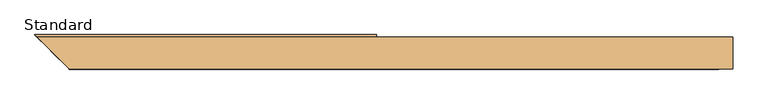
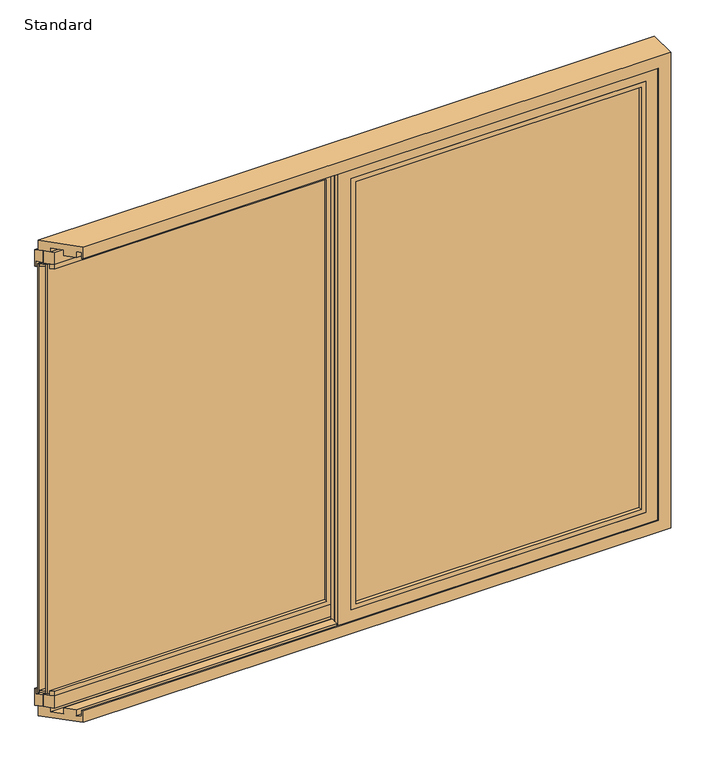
"""IFC4 building model written with IfcOpenShell, lengths in millimetres: door geometry, SMARTS_Visoglide Plus Corner : Standard."""

from ifc_helpers import new_model, si_unit, frame, origin, place, context, project, spatial, polyline, outline, extrude, faceted_brep, source, transform, mapped, element, save


def standard_1a9b79a5(model_context):
    return source(origin(), model_context, "Body", "SolidModel", [
        extrude(outline(polyline([(1242.5, -67.0), (26.5, -67.0), (26.5, -63.0), (1242.5, -63.0), (1242.5, -67.0)])), frame((0.0, 0.0, 907.5), z_axis=(0.0, 0.0, 1.0), x_axis=(1.0, 0.0, 0.0)), (0.0, 0.0, 1.0), 1885.0),
        extrude(outline(polyline([(1242.5, -47.0), (26.5, -47.0), (26.5, -43.0), (1242.5, -43.0), (1242.5, -47.0)])), frame((0.0, 0.0, 907.5), z_axis=(0.0, 0.0, 1.0), x_axis=(1.0, 0.0, 0.0)), (0.0, 0.0, 1.0), 1885.0),
        extrude(outline(polyline([(2792.5, 26.5), (907.5, 26.5), (907.5, 1242.5), (2792.5, 1242.5), (2792.5, 26.5)]), holes=[polyline([(2782.5, 1232.5), (917.5, 1232.5), (917.5, 36.5), (2782.5, 36.5), (2782.5, 1232.5)])]), frame((0.0, -63.0, 0.0), z_axis=(0.0, 1.0, 0.0), x_axis=(0.0, 0.0, 1.0)), (0.0, 0.0, 1.0), 16.0),
        extrude(outline(polyline([(2797.5, 1247.5), (2797.5, 21.5), (902.5, 21.5), (902.5, 1247.5), (2797.5, 1247.5)]), holes=[polyline([(922.5, 1227.5), (922.5, 41.5), (2777.5, 41.5), (2777.5, 1227.5), (922.5, 1227.5)])]), frame((0.0, -86.0, 0.0), z_axis=(0.0, 1.0, 0.0), x_axis=(0.0, 0.0, 1.0)), (0.0, 0.0, 1.0), 11.9897777),
        extrude(outline(polyline([(2851.5, 1301.5), (2851.5, -32.5), (848.5, -32.5), (848.5, 1301.5), (2851.5, 1301.5)]), holes=[polyline([(902.5, 1247.5), (902.5, 21.5), (2797.5, 21.5), (2797.5, 1247.5), (902.5, 1247.5)])]), frame((0.0, -86.0, 0.0), z_axis=(0.0, 1.0, 0.0), x_axis=(0.0, 0.0, 1.0)), (0.0, 0.0, 1.0), 24.0),
        faceted_brep([(1227.5, -39.0, 2777.5), (1227.5, -35.0, 2777.5), (1227.5, -35.0, 922.5), (1227.5, -39.0, 922.5), (1250.5, -62.0, 2800.5), (1250.5, -39.0, 2800.5), (1250.5, -39.0, 899.5), (1250.5, -62.0, 899.5), (1301.5, -35.0, 2851.5), (1301.5, -62.0, 2851.5), (1301.5, -62.0, 848.5), (1301.5, -35.0, 848.5), (41.5, -35.0, 922.5), (41.5, -39.0, 922.5), (18.5, -39.0, 899.5), (18.5, -62.0, 899.5), (-32.5, -62.0, 848.5), (-32.5, -35.0, 848.5), (41.5, -35.0, 2777.5), (41.5, -39.0, 2777.5), (18.5, -39.0, 2800.5), (18.5, -62.0, 2800.5), (-32.5, -62.0, 2851.5), (-32.5, -35.0, 2851.5)], [[[0, 1, 2, 3]], [[4, 5, 6, 7]], [[8, 9, 10, 11]], [[3, 2, 12, 13]], [[7, 6, 14, 15]], [[11, 10, 16, 17]], [[13, 12, 18, 19]], [[15, 14, 20, 21]], [[17, 16, 22, 23]], [[11, 17, 23, 8], [1, 18, 12, 2]], [[19, 18, 1, 0]], [[5, 20, 14, 6], [3, 13, 19, 0]], [[21, 20, 5, 4]], [[9, 22, 16, 10], [7, 15, 21, 4]], [[23, 22, 9, 8]]]),
        extrude(outline(polyline([(-26.5, 24.0), (-26.5, 20.0), (-1213.0, 20.0), (-1217.0, 24.0), (-26.5, 24.0)])), frame((0.0, 0.0, 907.5), z_axis=(0.0, 0.0, 1.0), x_axis=(1.0, 0.0, 0.0)), (0.0, 0.0, 1.0), 1885.0),
        extrude(outline(polyline([(-26.5, 4.0), (-26.5, 0.0), (-1193.0, 0.0), (-1197.0, 4.0), (-26.5, 4.0)])), frame((0.0, 0.0, 907.5), z_axis=(0.0, 0.0, 1.0), x_axis=(1.0, 0.0, 0.0)), (0.0, 0.0, 1.0), 1885.0),
        faceted_brep([(-36.5, 4.0, 2782.5), (-36.5, 20.0, 2782.5), (-36.5, 20.0, 917.5), (-36.5, 4.0, 917.5), (-1197.0, 4.0, 917.5), (-1197.0, 4.0, 907.5), (-26.5, 4.0, 907.5), (-26.5, 4.0, 2792.5), (-1197.0, 4.0, 2792.5), (-1197.0, 4.0, 2782.5), (-1213.0, 20.0, 2782.5), (-26.5, 20.0, 2792.5), (-1213.0, 20.0, 2792.5), (-26.5, 20.0, 907.5), (-1213.0, 20.0, 917.5), (-1213.0, 20.0, 907.5)], [[[0, 1, 2, 3]], [[0, 3, 4, 5, 6, 7, 8, 9]], [[1, 0, 9, 10]], [[7, 11, 12, 8]], [[11, 7, 6, 13]], [[3, 2, 14, 4]], [[13, 6, 5, 15]], [[2, 1, 10, 12, 11, 13, 15, 14]], [[10, 9, 8, 12]], [[4, 14, 15, 5]]]),
        faceted_brep([(-1185.9897777, -7.0102223, 2777.5), (-1174.0, -19.0, 2777.5), (-1174.0, -19.0, 2797.5), (-1185.9897777, -7.0102223, 2797.5), (-1174.0, -19.0, 922.5), (-1185.9897777, -7.0102223, 922.5), (-1185.9897777, -7.0102223, 902.5), (-1174.0, -19.0, 902.5), (-41.5, -7.0102223, 922.5), (-41.5, -19.0, 922.5), (-41.5, -19.0, 2777.5), (-41.5, -7.0102223, 2777.5), (-21.5, -19.0, 902.5), (-21.5, -7.0102223, 902.5), (-21.5, -7.0102223, 2797.5), (-21.5, -19.0, 2797.5)], [[[0, 1, 2, 3]], [[4, 5, 6, 7]], [[8, 9, 10, 11]], [[12, 13, 14, 15]], [[11, 10, 1, 0]], [[15, 14, 3, 2]], [[9, 8, 5, 4]], [[8, 11, 0, 3, 14, 13, 6, 5]], [[13, 12, 7, 6]], [[10, 9, 4, 7, 12, 15, 2, 1]]]),
        faceted_brep([(-1174.0, -19.0, 2851.5), (-1202.5, 9.5, 2851.5), (-1202.5, 9.5, 2797.5), (-1174.0, -19.0, 2797.5), (-1202.5, 9.5, 902.5), (-1202.5, 9.5, 848.5), (-1174.0, -19.0, 848.5), (-1174.0, -19.0, 902.5), (32.5, -19.0, 848.5), (32.5, 9.5, 848.5), (32.5, 9.5, 2851.5), (32.5, -19.0, 2851.5), (-21.5, 9.5, 902.5), (-21.5, -19.0, 902.5), (-21.5, -19.0, 2797.5), (-21.5, 9.5, 2797.5)], [[[0, 1, 2, 3]], [[4, 5, 6, 7]], [[8, 9, 10, 11]], [[12, 13, 14, 15]], [[11, 10, 1, 0]], [[15, 14, 3, 2]], [[10, 9, 5, 4, 12, 15, 2, 1]], [[9, 8, 6, 5]], [[8, 11, 0, 3, 14, 13, 7, 6]], [[13, 12, 4, 7]]]),
        faceted_brep([(-1221.0, 28.0, 922.5), (-1225.0, 32.0, 922.5), (-1225.0, 32.0, 848.5), (-1202.5, 9.5, 848.5), (-1202.5, 9.5, 899.5), (-1221.0, 28.0, 899.5), (-1225.0, 32.0, 2851.5), (-1225.0, 32.0, 2777.5), (-1221.0, 28.0, 2777.5), (-1221.0, 28.0, 2800.5), (-1202.5, 9.5, 2800.5), (-1202.5, 9.5, 2851.5), (-41.5, 28.0, 2777.5), (-41.5, 32.0, 2777.5), (-41.5, 32.0, 922.5), (-41.5, 28.0, 922.5), (-18.5, 9.5, 2800.5), (-18.5, 28.0, 2800.5), (-18.5, 28.0, 899.5), (-18.5, 9.5, 899.5), (32.5, 32.0, 2851.5), (32.5, 9.5, 2851.5), (32.5, 9.5, 848.5), (32.5, 32.0, 848.5)], [[[0, 1, 2, 3, 4, 5]], [[6, 7, 8, 9, 10, 11]], [[12, 13, 14, 15]], [[16, 17, 18, 19]], [[20, 21, 22, 23]], [[15, 14, 1, 0]], [[19, 18, 5, 4]], [[23, 22, 3, 2]], [[14, 13, 7, 6, 20, 23, 2, 1]], [[13, 12, 8, 7]], [[12, 15, 0, 5, 18, 17, 9, 8]], [[17, 16, 10, 9]], [[16, 19, 4, 3, 22, 21, 11, 10]], [[21, 20, 6, 11]]]),
        faceted_brep([(1345.0, -95.0, 2895.0), (1345.0, 22.7989407, 2895.0), (-1215.7989407, 22.7989407, 2895.0), (-1098.0, -95.0, 2895.0), (1293.1999999, -91.0, 2843.1999999), (1293.1999999, -95.0, 2843.1999999), (-1098.0, -95.0, 2843.1999999), (-1102.0, -91.0, 2843.1999999), (1319.1999999, -76.3, 2869.1999999), (1319.1999999, -91.0, 2869.1999999), (-1102.0, -91.0, 2869.1999999), (-1116.7, -76.3, 2869.1999999), (1293.1999999, -43.7842251, 2843.1999999), (1293.1999999, -76.3, 2843.1999999), (-1116.7, -76.3, 2843.1999999), (-1149.2157749, -43.7842251, 2843.1999999), (1319.1999999, -9.7842251, 2869.1999999), (1319.1999999, -43.7842251, 2869.1999999), (-1149.2157749, -43.7842251, 2869.1999999), (-1183.2157749, -9.7842251, 2869.1999999), (1293.1999999, 22.7989407, 2843.1999999), (1293.1999999, -9.7842251, 2843.1999999), (-1183.2157749, -9.7842251, 2843.1999999), (-1215.7989407, 22.7989407, 2843.1999999), (1345.0, 22.7989407, 805.0), (1345.0, -95.0, 805.0), (-1098.0, -95.0, 805.0), (-1215.7989407, 22.7989407, 805.0), (1293.1999999, -95.0, 856.8000001), (1293.1999999, -91.0, 856.8000001), (-1102.0, -91.0, 856.8000001), (-1098.0, -95.0, 856.8000001), (1319.1999999, -91.0, 830.8000001), (1319.1999999, -76.3, 830.8000001), (-1116.7, -76.3, 830.8000001), (-1102.0, -91.0, 830.8000001), (1293.1999999, -76.3, 856.8000001), (1293.1999999, -43.7842251, 856.8000001), (-1149.2157749, -43.7842251, 856.8000001), (-1116.7, -76.3, 856.8000001), (1319.1999999, -43.7842251, 830.8000001), (1319.1999999, -9.7842251, 830.8000001), (-1183.2157749, -9.7842251, 830.8000001), (-1149.2157749, -43.7842251, 830.8000001), (1293.1999999, -9.7842251, 856.8000001), (1293.1999999, 22.7989407, 856.8000001), (-1215.7989407, 22.7989407, 856.8000001), (-1183.2157749, -9.7842251, 856.8000001)], [[[0, 1, 2, 3]], [[4, 5, 6, 7]], [[8, 9, 10, 11]], [[12, 13, 14, 15]], [[16, 17, 18, 19]], [[20, 21, 22, 23]], [[24, 25, 26, 27]], [[28, 29, 30, 31]], [[32, 33, 34, 35]], [[36, 37, 38, 39]], [[40, 41, 42, 43]], [[44, 45, 46, 47]], [[1, 0, 25, 24]], [[25, 0, 3, 6, 5, 28, 31, 26]], [[5, 4, 29, 28]], [[29, 4, 7, 10, 9, 32, 35, 30]], [[9, 8, 33, 32]], [[33, 8, 11, 14, 13, 36, 39, 34]], [[13, 12, 37, 36]], [[37, 12, 15, 18, 17, 40, 43, 38]], [[17, 16, 41, 40]], [[41, 16, 19, 22, 21, 44, 47, 42]], [[21, 20, 45, 44]], [[1, 24, 27, 46, 45, 20, 23, 2]], [[3, 2, 23, 22, 19, 18, 15, 14, 11, 10, 7, 6]], [[27, 26, 31, 30, 35, 34, 39, 38, 43, 42, 47, 46]]]),
    ])


if __name__ == "__main__":
    model = new_model("IFC4")
    model_context = context("Model", 3, world=origin())
    ifc_project = project(units=[si_unit("LENGTHUNIT", "METRE", prefix="MILLI")], contexts=[model_context])
    site = spatial("IfcSite", under=ifc_project)
    building = spatial("IfcBuilding", under=site)
    placement = place(None, origin())
    standard_shape = standard_1a9b79a5(model_context)
    element("IfcDoor", 1, ObjectType="SMARTS_Visoglide Plus Corner : Standard", at=placement, inside=building, context=model_context, shape_type="MappedRepresentation", body=[
        mapped(standard_shape, transform((0.0, 0.0, 0.0), x_axis=(1.0, 0.0, 0.0), y_axis=(0.0, 1.0, 0.0), z_axis=(0.0, 0.0, 1.0))),
    ])
    save(model, "model.ifc")
